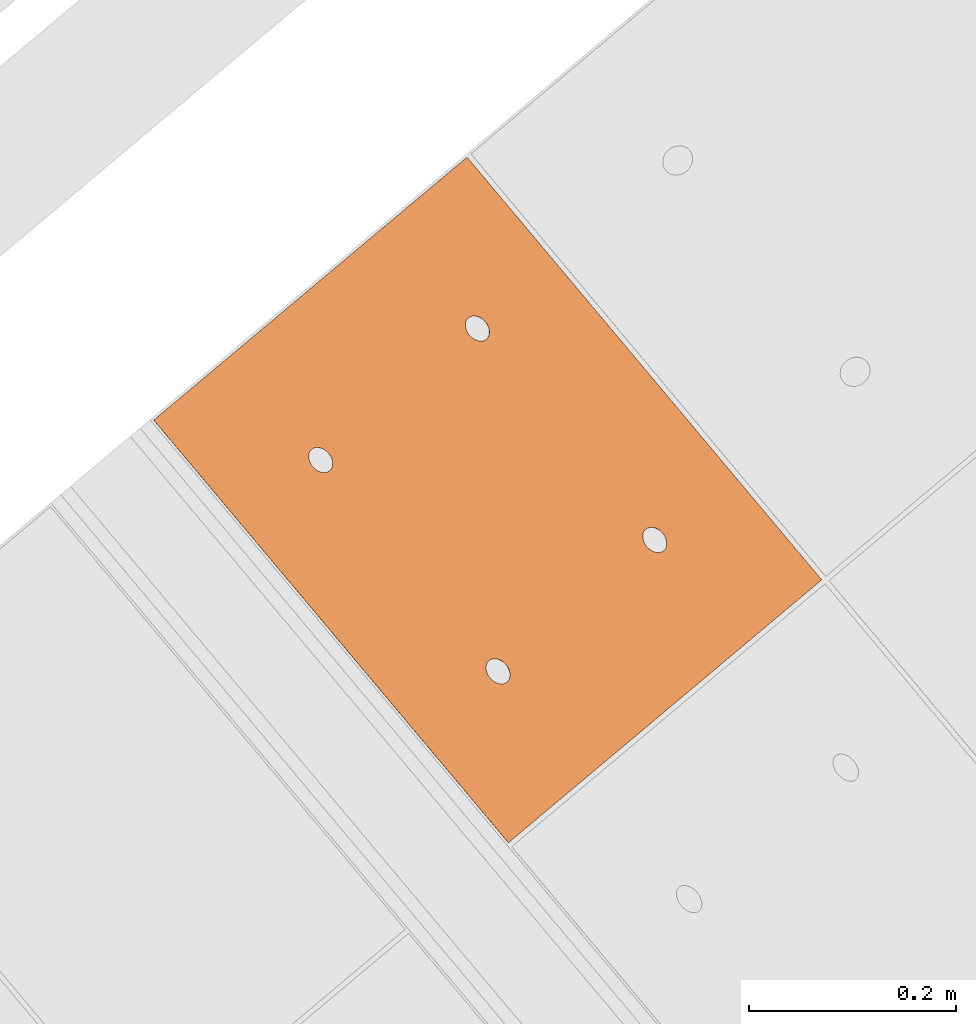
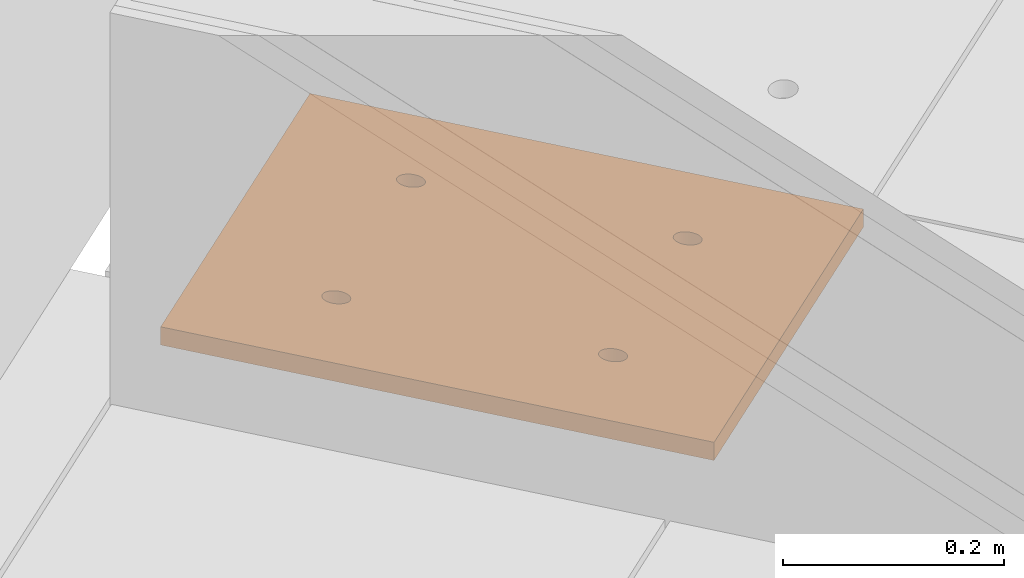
# One storey, part 322 of 338: 1 proxy, 1 element without a shape of its own.
"""IFC2X3 building model written with IfcOpenShell, lengths in millimetres."""

from ifc_helpers import new_model, entity, si_unit, converted_unit, derived_unit, money_unit, direction, frame, origin_with_axes, place, context, subcontext, project, spatial, faceted_brep, material, type_object, element, aggregate, save


model = new_model("IFC2X3")

# Units and contexts
model_context = context("Model", 3, precision=0.01, world=origin_with_axes(), true_north=direction((0.0, 1.0)))
plan_context = context("Plan", 3, precision=0.01, world=origin_with_axes(), true_north=direction((0.0, 1.0)))
body_context = subcontext(model_context, "Body", "Model", "MODEL_VIEW")
ifc_project = project(units=[si_unit("LENGTHUNIT", "METRE", prefix="MILLI"), si_unit("AREAUNIT", "SQUARE_METRE"), si_unit("VOLUMEUNIT", "CUBIC_METRE"), converted_unit("PLANEANGLEUNIT", "DEGREE", entity("IfcPlaneAngleMeasure", 0.0174532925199), si_unit("PLANEANGLEUNIT", "RADIAN"), dimensions=[0, 0, 0, 0, 0, 0, 0]), money_unit("EUR"), converted_unit("TIMEUNIT", "Year", entity("IfcTimeMeasure", 31556926.0), si_unit("TIMEUNIT", "SECOND"), dimensions=[0, 0, 1, 0, 0, 0, 0]), si_unit("MASSUNIT", "GRAM", prefix="KILO"), si_unit("THERMODYNAMICTEMPERATUREUNIT", "DEGREE_CELSIUS"), si_unit("LUMINOUSINTENSITYUNIT", "LUMEN"), si_unit("ENERGYUNIT", "JOULE", prefix="MEGA"), derived_unit("THERMALCONDUCTANCEUNIT", [(si_unit("POWERUNIT", "WATT"), 1), (si_unit("LENGTHUNIT", "METRE"), -1), (si_unit("THERMODYNAMICTEMPERATUREUNIT", "KELVIN"), -1)]), derived_unit("SPECIFICHEATCAPACITYUNIT", [(si_unit("ENERGYUNIT", "JOULE"), 1), (si_unit("MASSUNIT", "GRAM", prefix="KILO"), -1), (si_unit("THERMODYNAMICTEMPERATUREUNIT", "KELVIN"), -1)]), derived_unit("MASSDENSITYUNIT", [(si_unit("MASSUNIT", "GRAM", prefix="KILO"), 1), (si_unit("VOLUMEUNIT", "CUBIC_METRE"), -1)])], contexts=[model_context, plan_context])

# Site, building, storey
site_placement = place(None, origin_with_axes())
site = spatial("IfcSite", under=ifc_project, at=site_placement, Name="Fortuinstraat Woensdrecht", CompositionType="ELEMENT")
building_placement = place(site_placement, origin_with_axes())
building = spatial("IfcBuilding", under=site, at=building_placement, Name="IKC Fortuna", CompositionType="ELEMENT")
storey_placement = place(building_placement, origin_with_axes())
storey = spatial("IfcBuildingStorey", under=building, at=storey_placement, Name="00 begane grond", CompositionType="ELEMENT", Elevation=0.0)

# Covering, proxy
covering_type = type_object("IfcCoveringType", Name="Curtain Wall Type", PredefinedType="CEILING")
covering_placement = place(storey_placement, frame((15863.124366, 4456.31398675, 4619.99995334), z_axis=(0.0, 0.0, 1.0), x_axis=(1.0, 0.0, 0.0)))
covering = element("IfcCovering", 1, at=covering_placement, inside=storey, type_object=covering_type, Name="45_Plafondafwerking_P01", PredefinedType="CEILING")
ifc_material = material(Name="Gipsplaat")
building_element_proxy_type = type_object("IfcBuildingElementProxyType", Name="Main Panel 400 x 538 x 20", PredefinedType="NOTDEFINED")
proxy_placement = place(covering_placement, frame((-9577.76360567, 187.484762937, 38.9196635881), z_axis=(0.0, 0.0, 1.0), x_axis=(0.642787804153, -0.766044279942, 0.0)))
proxy = element("IfcBuildingElementProxy", 2, at=proxy_placement, type_object=building_element_proxy_type, material=ifc_material, Name="__600x943 Rockfon Krios", context=body_context, shape_type="Brep", body=[
    faceted_brep([(-266.295988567, 197.328705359, -11.0667235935), (-266.295988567, -0.0540508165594, -9.99985392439), (-266.295988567, 0.0540492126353, 9.99985393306), (-266.295988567, 197.436805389, 8.93298426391), (-6.23458058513e-05, 197.328705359, -11.0667235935), (266.295863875, 197.328705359, -11.0667235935), (266.295863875, -0.0540508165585, -9.99985392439), (266.295863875, -197.436806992, -8.93298425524), (-6.23458062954e-05, -197.436806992, -8.93298425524), (-266.295988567, -197.436806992, -8.93298425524), (134.322583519, 88.6852555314, -10.4794970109), (136.636256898, 88.9876441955, -10.481131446), (138.843938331, 89.5832335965, -10.4843506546), (140.878548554, 90.4539270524, -10.4890568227), (142.678266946, 91.5732689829, -10.4951069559), (144.188409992, 92.90724875, -10.5023172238), (145.363092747, 94.4153340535, -10.5104685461), (146.16662308, 96.051702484, -10.5193132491), (146.57458612, 97.7666338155, -10.5285825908), (146.57458612, 99.5080207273, -10.5379949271), (146.16662308, 101.222952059, -10.5472642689), (145.363092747, 102.85932049, -10.5561089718), (144.188409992, 104.367405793, -10.5642602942), (142.678266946, 105.70138556, -10.5714705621), (140.878548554, 106.82072749, -10.5775206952), (138.843938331, 107.691420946, -10.5822268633), (136.636256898, 108.287010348, -10.585446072), (134.322583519, 108.589399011, -10.587080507), (133.147900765, 108.589399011, -10.587080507), (131.97321801, 108.589399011, -10.587080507), (129.659544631, 108.287010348, -10.585446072), (127.451863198, 107.691420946, -10.5822268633), (125.417252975, 106.82072749, -10.5775206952), (123.617534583, 105.70138556, -10.5714705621), (122.107391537, 104.367405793, -10.5642602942), (120.932708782, 102.85932049, -10.5561089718), (120.12917845, 101.222952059, -10.5472642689), (119.721215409, 99.5080207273, -10.5379949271), (119.721215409, 97.7666338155, -10.5285825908), (120.12917845, 96.051702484, -10.5193132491), (120.932708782, 94.4153340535, -10.5104685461), (122.107391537, 92.90724875, -10.5023172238), (123.617534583, 91.5732689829, -10.4951069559), (125.417252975, 90.4539270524, -10.4890568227), (127.451863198, 89.5832335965, -10.4843506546), (129.659544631, 88.9876441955, -10.481131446), (131.97321801, 88.6852555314, -10.4794970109), (134.322583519, -108.697500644, -9.41262734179), (136.636256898, -108.39511198, -9.41426177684), (138.843938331, -107.799522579, -9.41748098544), (140.878548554, -106.928829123, -9.42218715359), (142.678266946, -105.809487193, -9.42823728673), (144.188409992, -104.475507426, -9.43544755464), (145.363092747, -102.967422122, -9.44359887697), (146.16662308, -101.331053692, -9.45244357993), (146.57458612, -99.6161223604, -9.46171292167), (146.57458612, -97.8747354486, -9.47112525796), (146.16662308, -96.1598041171, -9.48039459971), (145.363092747, -94.523435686, -9.48923930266), (144.188409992, -93.0153503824, -9.497390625), (142.678266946, -91.681370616, -9.5046008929), (140.878548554, -90.5620286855, -9.51065102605), (138.843938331, -89.6913352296, -9.51535719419), (136.636256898, -89.0957458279, -9.5185764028), (134.322583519, -88.7933571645, -9.52021083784), (133.147900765, -88.7933571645, -9.52021083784), (131.97321801, -88.7933571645, -9.52021083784), (129.659544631, -89.0957458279, -9.5185764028), (127.451863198, -89.6913352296, -9.51535719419), (125.417252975, -90.5620286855, -9.51065102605), (123.617534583, -91.681370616, -9.5046008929), (122.107391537, -93.0153503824, -9.497390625), (120.932708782, -94.523435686, -9.48923930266), (120.12917845, -96.1598041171, -9.48039459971), (119.721215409, -97.8747354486, -9.47112525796), (119.721215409, -99.6161223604, -9.46171292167), (120.12917845, -101.331053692, -9.45244357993), (120.932708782, -102.967422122, -9.44359887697), (122.107391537, -104.475507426, -9.43544755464), (123.617534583, -105.809487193, -9.42823728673), (125.417252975, -106.928829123, -9.42218715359), (127.451863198, -107.799522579, -9.41748098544), (129.659544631, -108.39511198, -9.41426177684), (131.97321801, -108.697500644, -9.41262734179), (-131.973342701, -108.697500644, -9.41262734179), (-129.659669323, -108.39511198, -9.41426177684), (-127.45198789, -107.799522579, -9.41748098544), (-125.417377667, -106.928829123, -9.42218715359), (-123.617659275, -105.809487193, -9.42823728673), (-122.107516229, -104.475507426, -9.43544755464), (-120.932833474, -102.967422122, -9.44359887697), (-120.129303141, -101.331053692, -9.45244357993), (-119.721340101, -99.6161223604, -9.46171292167), (-119.721340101, -97.8747354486, -9.47112525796), (-120.129303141, -96.1598041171, -9.48039459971), (-120.932833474, -94.523435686, -9.48923930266), (-122.107516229, -93.0153503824, -9.497390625), (-123.617659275, -91.681370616, -9.5046008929), (-125.417377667, -90.5620286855, -9.51065102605), (-127.45198789, -89.6913352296, -9.51535719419), (-129.659669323, -89.0957458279, -9.5185764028), (-131.973342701, -88.7933571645, -9.52021083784), (-133.148025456, -88.7933571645, -9.52021083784), (-134.322708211, -88.7933571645, -9.52021083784), (-136.63638159, -89.0957458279, -9.5185764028), (-138.844063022, -89.6913352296, -9.51535719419), (-140.878673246, -90.5620286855, -9.51065102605), (-142.678391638, -91.681370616, -9.5046008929), (-144.188534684, -93.0153503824, -9.497390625), (-145.363217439, -94.523435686, -9.48923930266), (-146.166747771, -96.1598041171, -9.48039459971), (-146.574710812, -97.8747354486, -9.47112525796), (-146.574710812, -99.6161223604, -9.46171292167), (-146.166747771, -101.331053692, -9.45244357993), (-145.363217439, -102.967422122, -9.44359887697), (-144.188534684, -104.475507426, -9.43544755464), (-142.678391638, -105.809487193, -9.42823728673), (-140.878673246, -106.928829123, -9.42218715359), (-138.844063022, -107.799522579, -9.41748098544), (-136.63638159, -108.39511198, -9.41426177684), (-134.322708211, -108.697500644, -9.41262734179), (-131.973342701, 88.6852555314, -10.4794970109), (-129.659669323, 88.9876441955, -10.481131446), (-127.45198789, 89.5832335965, -10.4843506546), (-125.417377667, 90.4539270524, -10.4890568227), (-123.617659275, 91.5732689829, -10.4951069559), (-122.107516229, 92.90724875, -10.5023172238), (-120.932833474, 94.4153340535, -10.5104685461), (-120.129303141, 96.051702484, -10.5193132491), (-119.721340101, 97.7666338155, -10.5285825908), (-119.721340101, 99.5080207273, -10.5379949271), (-120.129303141, 101.222952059, -10.5472642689), (-120.932833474, 102.85932049, -10.5561089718), (-122.107516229, 104.367405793, -10.5642602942), (-123.617659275, 105.70138556, -10.5714705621), (-125.417377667, 106.82072749, -10.5775206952), (-127.45198789, 107.691420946, -10.5822268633), (-129.659669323, 108.287010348, -10.585446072), (-131.973342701, 108.589399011, -10.587080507), (-133.148025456, 108.589399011, -10.587080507), (-134.322708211, 108.589399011, -10.587080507), (-136.63638159, 108.287010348, -10.585446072), (-138.844063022, 107.691420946, -10.5822268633), (-140.878673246, 106.82072749, -10.5775206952), (-142.678391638, 105.70138556, -10.5714705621), (-144.188534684, 104.367405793, -10.5642602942), (-145.363217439, 102.85932049, -10.5561089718), (-146.166747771, 101.222952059, -10.5472642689), (-146.574710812, 99.5080207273, -10.5379949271), (-146.574710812, 97.7666338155, -10.5285825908), (-146.166747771, 96.051702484, -10.5193132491), (-145.363217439, 94.4153340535, -10.5104685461), (-144.188534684, 92.90724875, -10.5023172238), (-142.678391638, 91.5732689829, -10.4951069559), (-140.878673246, 90.4539270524, -10.4890568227), (-138.844063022, 89.5832335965, -10.4843506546), (-136.63638159, 88.9876441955, -10.481131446), (-134.322708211, 88.6852555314, -10.4794970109), (-266.295988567, -197.328706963, 11.0667236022), (-6.23458062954e-05, -197.328706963, 11.0667236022), (266.295863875, -197.328706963, 11.0667236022), (266.295863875, 0.0540492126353, 9.99985393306), (266.295863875, 197.436805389, 8.93298426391), (-6.23458054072e-05, 197.436805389, 8.93298426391), (134.322583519, 88.7933555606, 9.52021084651), (131.97321801, 88.7933555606, 9.52021084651), (129.659544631, 89.0957442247, 9.51857641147), (127.451863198, 89.6913336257, 9.51535720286), (125.417252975, 90.5620270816, 9.51065103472), (123.617534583, 91.6813690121, 9.50460090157), (122.107391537, 93.0153487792, 9.49739063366), (120.932708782, 94.5234340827, 9.48923931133), (120.12917845, 96.1598025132, 9.48039460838), (119.721215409, 97.8747338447, 9.47112526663), (119.721215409, 99.6161207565, 9.46171293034), (120.12917845, 101.331052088, 9.45244358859), (120.932708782, 102.967420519, 9.44359888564), (122.107391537, 104.475505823, 9.43544756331), (123.617534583, 105.809485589, 9.4282372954), (125.417252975, 106.92882752, 9.42218716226), (127.451863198, 107.799520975, 9.41748099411), (129.659544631, 108.395110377, 9.4142617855), (131.97321801, 108.697499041, 9.41262735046), (133.147900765, 108.697499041, 9.41262735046), (134.322583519, 108.697499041, 9.41262735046), (136.636256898, 108.395110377, 9.4142617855), (138.843938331, 107.799520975, 9.41748099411), (140.878548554, 106.92882752, 9.42218716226), (142.678266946, 105.809485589, 9.4282372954), (144.188409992, 104.475505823, 9.43544756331), (145.363092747, 102.967420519, 9.44359888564), (146.16662308, 101.331052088, 9.45244358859), (146.57458612, 99.6161207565, 9.46171293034), (146.57458612, 97.8747338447, 9.47112526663), (146.16662308, 96.1598025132, 9.48039460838), (145.363092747, 94.5234340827, 9.48923931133), (144.188409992, 93.0153487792, 9.49739063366), (142.678266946, 91.6813690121, 9.50460090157), (140.878548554, 90.5620270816, 9.51065103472), (138.843938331, 89.6913336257, 9.51535720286), (136.636256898, 89.0957442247, 9.51857641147), (134.322583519, -108.589400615, 10.5870805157), (131.97321801, -108.589400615, 10.5870805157), (129.659544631, -108.287011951, 10.5854460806), (127.451863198, -107.69142255, 10.582226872), (125.417252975, -106.820729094, 10.5775207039), (123.617534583, -105.701387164, 10.5714705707), (122.107391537, -104.367407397, 10.5642603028), (120.932708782, -102.859322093, 10.5561089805), (120.12917845, -101.222953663, 10.5472642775), (119.721215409, -99.5080223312, 10.5379949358), (119.721215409, -97.7666354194, 10.5285825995), (120.12917845, -96.0517040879, 10.5193132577), (120.932708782, -94.4153356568, 10.5104685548), (122.107391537, -92.9072503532, 10.5023172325), (123.617534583, -91.5732705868, 10.4951069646), (125.417252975, -90.4539286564, 10.4890568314), (127.451863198, -89.5832352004, 10.4843506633), (129.659544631, -88.9876457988, 10.4811314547), (131.97321801, -88.6852571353, 10.4794970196), (133.147900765, -88.6852571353, 10.4794970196), (134.322583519, -88.6852571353, 10.4794970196), (136.636256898, -88.9876457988, 10.4811314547), (138.843938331, -89.5832352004, 10.4843506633), (140.878548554, -90.4539286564, 10.4890568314), (142.678266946, -91.5732705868, 10.4951069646), (144.188409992, -92.9072503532, 10.5023172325), (145.363092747, -94.4153356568, 10.5104685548), (146.16662308, -96.0517040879, 10.5193132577), (146.57458612, -97.7666354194, 10.5285825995), (146.57458612, -99.5080223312, 10.5379949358), (146.16662308, -101.222953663, 10.5472642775), (145.363092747, -102.859322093, 10.5561089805), (144.188409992, -104.367407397, 10.5642603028), (142.678266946, -105.701387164, 10.5714705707), (140.878548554, -106.820729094, 10.5775207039), (138.843938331, -107.69142255, 10.582226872), (136.636256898, -108.287011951, 10.5854460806), (-131.973342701, -108.589400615, 10.5870805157), (-134.322708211, -108.589400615, 10.5870805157), (-136.63638159, -108.287011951, 10.5854460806), (-138.844063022, -107.69142255, 10.582226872), (-140.878673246, -106.820729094, 10.5775207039), (-142.678391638, -105.701387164, 10.5714705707), (-144.188534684, -104.367407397, 10.5642603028), (-145.363217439, -102.859322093, 10.5561089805), (-146.166747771, -101.222953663, 10.5472642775), (-146.574710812, -99.5080223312, 10.5379949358), (-146.574710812, -97.7666354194, 10.5285825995), (-146.166747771, -96.0517040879, 10.5193132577), (-145.363217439, -94.4153356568, 10.5104685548), (-144.188534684, -92.9072503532, 10.5023172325), (-142.678391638, -91.5732705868, 10.4951069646), (-140.878673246, -90.4539286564, 10.4890568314), (-138.844063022, -89.5832352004, 10.4843506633), (-136.63638159, -88.9876457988, 10.4811314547), (-134.322708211, -88.6852571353, 10.4794970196), (-133.148025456, -88.6852571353, 10.4794970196), (-131.973342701, -88.6852571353, 10.4794970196), (-129.659669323, -88.9876457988, 10.4811314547), (-127.45198789, -89.5832352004, 10.4843506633), (-125.417377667, -90.4539286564, 10.4890568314), (-123.617659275, -91.5732705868, 10.4951069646), (-122.107516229, -92.9072503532, 10.5023172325), (-120.932833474, -94.4153356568, 10.5104685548), (-120.129303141, -96.0517040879, 10.5193132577), (-119.721340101, -97.7666354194, 10.5285825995), (-119.721340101, -99.5080223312, 10.5379949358), (-120.129303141, -101.222953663, 10.5472642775), (-120.932833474, -102.859322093, 10.5561089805), (-122.107516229, -104.367407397, 10.5642603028), (-123.617659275, -105.701387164, 10.5714705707), (-125.417377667, -106.820729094, 10.5775207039), (-127.45198789, -107.69142255, 10.582226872), (-129.659669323, -108.287011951, 10.5854460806), (-131.973342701, 88.7933555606, 9.52021084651), (-134.322708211, 88.7933555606, 9.52021084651), (-136.63638159, 89.0957442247, 9.51857641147), (-138.844063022, 89.6913336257, 9.51535720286), (-140.878673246, 90.5620270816, 9.51065103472), (-142.678391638, 91.6813690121, 9.50460090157), (-144.188534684, 93.0153487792, 9.49739063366), (-145.363217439, 94.5234340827, 9.48923931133), (-146.166747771, 96.1598025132, 9.48039460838), (-146.574710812, 97.8747338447, 9.47112526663), (-146.574710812, 99.6161207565, 9.46171293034), (-146.166747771, 101.331052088, 9.45244358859), (-145.363217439, 102.967420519, 9.44359888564), (-144.188534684, 104.475505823, 9.43544756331), (-142.678391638, 105.809485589, 9.4282372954), (-140.878673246, 106.92882752, 9.42218716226), (-138.844063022, 107.799520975, 9.41748099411), (-136.63638159, 108.395110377, 9.4142617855), (-134.322708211, 108.697499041, 9.41262735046), (-133.148025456, 108.697499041, 9.41262735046), (-131.973342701, 108.697499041, 9.41262735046), (-129.659669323, 108.395110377, 9.4142617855), (-127.45198789, 107.799520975, 9.41748099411), (-125.417377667, 106.92882752, 9.42218716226), (-123.617659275, 105.809485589, 9.4282372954), (-122.107516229, 104.475505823, 9.43544756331), (-120.932833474, 102.967420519, 9.44359888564), (-120.129303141, 101.331052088, 9.45244358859), (-119.721340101, 99.6161207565, 9.46171293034), (-119.721340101, 97.8747338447, 9.47112526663), (-120.129303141, 96.1598025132, 9.48039460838), (-120.932833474, 94.5234340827, 9.48923931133), (-122.107516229, 93.0153487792, 9.49739063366), (-123.617659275, 91.6813690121, 9.50460090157), (-125.417377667, 90.5620270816, 9.51065103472), (-127.45198789, 89.6913336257, 9.51535720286), (-129.659669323, 89.0957442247, 9.51857641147)], [[[0, 1, 2, 3]], [[0, 4, 5, 6, 7, 8, 9, 1], [10, 11, 12, 13, 14, 15, 16, 17, 18, 19, 20, 21, 22, 23, 24, 25, 26, 27, 28, 29, 30, 31, 32, 33, 34, 35, 36, 37, 38, 39, 40, 41, 42, 43, 44, 45, 46], [47, 48, 49, 50, 51, 52, 53, 54, 55, 56, 57, 58, 59, 60, 61, 62, 63, 64, 65, 66, 67, 68, 69, 70, 71, 72, 73, 74, 75, 76, 77, 78, 79, 80, 81, 82, 83], [84, 85, 86, 87, 88, 89, 90, 91, 92, 93, 94, 95, 96, 97, 98, 99, 100, 101, 102, 103, 104, 105, 106, 107, 108, 109, 110, 111, 112, 113, 114, 115, 116, 117, 118, 119, 120], [121, 122, 123, 124, 125, 126, 127, 128, 129, 130, 131, 132, 133, 134, 135, 136, 137, 138, 139, 140, 141, 142, 143, 144, 145, 146, 147, 148, 149, 150, 151, 152, 153, 154, 155, 156, 157]], [[1, 9, 158, 2]], [[3, 2, 158, 159, 160, 161, 162, 163], [164, 165, 166, 167, 168, 169, 170, 171, 172, 173, 174, 175, 176, 177, 178, 179, 180, 181, 182, 183, 184, 185, 186, 187, 188, 189, 190, 191, 192, 193, 194, 195, 196, 197, 198, 199, 200], [201, 202, 203, 204, 205, 206, 207, 208, 209, 210, 211, 212, 213, 214, 215, 216, 217, 218, 219, 220, 221, 222, 223, 224, 225, 226, 227, 228, 229, 230, 231, 232, 233, 234, 235, 236, 237], [238, 239, 240, 241, 242, 243, 244, 245, 246, 247, 248, 249, 250, 251, 252, 253, 254, 255, 256, 257, 258, 259, 260, 261, 262, 263, 264, 265, 266, 267, 268, 269, 270, 271, 272, 273, 274], [275, 276, 277, 278, 279, 280, 281, 282, 283, 284, 285, 286, 287, 288, 289, 290, 291, 292, 293, 294, 295, 296, 297, 298, 299, 300, 301, 302, 303, 304, 305, 306, 307, 308, 309, 310, 311]], [[4, 0, 3, 163]], [[5, 4, 163, 162]], [[6, 5, 162, 161]], [[7, 6, 161, 160]], [[8, 7, 160, 159]], [[9, 8, 159, 158]], [[11, 10, 164, 200]], [[12, 11, 200, 199]], [[13, 12, 199, 198]], [[14, 13, 198, 197]], [[15, 14, 197, 196]], [[16, 15, 196, 195]], [[17, 16, 195, 194]], [[18, 17, 194, 193]], [[19, 18, 193, 192]], [[20, 19, 192, 191]], [[21, 20, 191, 190]], [[22, 21, 190, 189]], [[23, 22, 189, 188]], [[24, 23, 188, 187]], [[25, 24, 187, 186]], [[26, 25, 186, 185]], [[27, 26, 185, 184]], [[28, 27, 184, 183]], [[29, 28, 183, 182]], [[30, 29, 182, 181]], [[31, 30, 181, 180]], [[32, 31, 180, 179]], [[33, 32, 179, 178]], [[34, 33, 178, 177]], [[35, 34, 177, 176]], [[36, 35, 176, 175]], [[37, 36, 175, 174]], [[38, 37, 174, 173]], [[39, 38, 173, 172]], [[40, 39, 172, 171]], [[41, 40, 171, 170]], [[42, 41, 170, 169]], [[43, 42, 169, 168]], [[44, 43, 168, 167]], [[45, 44, 167, 166]], [[46, 45, 166, 165]], [[10, 46, 165, 164]], [[48, 47, 201, 237]], [[49, 48, 237, 236]], [[50, 49, 236, 235]], [[51, 50, 235, 234]], [[52, 51, 234, 233]], [[53, 52, 233, 232]], [[54, 53, 232, 231]], [[55, 54, 231, 230]], [[56, 55, 230, 229]], [[57, 56, 229, 228]], [[58, 57, 228, 227]], [[59, 58, 227, 226]], [[60, 59, 226, 225]], [[61, 60, 225, 224]], [[62, 61, 224, 223]], [[63, 62, 223, 222]], [[64, 63, 222, 221]], [[65, 64, 221, 220]], [[66, 65, 220, 219]], [[67, 66, 219, 218]], [[68, 67, 218, 217]], [[69, 68, 217, 216]], [[70, 69, 216, 215]], [[71, 70, 215, 214]], [[72, 71, 214, 213]], [[73, 72, 213, 212]], [[74, 73, 212, 211]], [[75, 74, 211, 210]], [[76, 75, 210, 209]], [[77, 76, 209, 208]], [[78, 77, 208, 207]], [[79, 78, 207, 206]], [[80, 79, 206, 205]], [[81, 80, 205, 204]], [[82, 81, 204, 203]], [[83, 82, 203, 202]], [[47, 83, 202, 201]], [[85, 84, 238, 274]], [[86, 85, 274, 273]], [[87, 86, 273, 272]], [[88, 87, 272, 271]], [[89, 88, 271, 270]], [[90, 89, 270, 269]], [[91, 90, 269, 268]], [[92, 91, 268, 267]], [[93, 92, 267, 266]], [[94, 93, 266, 265]], [[95, 94, 265, 264]], [[96, 95, 264, 263]], [[97, 96, 263, 262]], [[98, 97, 262, 261]], [[99, 98, 261, 260]], [[100, 99, 260, 259]], [[101, 100, 259, 258]], [[102, 101, 258, 257]], [[103, 102, 257, 256]], [[104, 103, 256, 255]], [[105, 104, 255, 254]], [[106, 105, 254, 253]], [[107, 106, 253, 252]], [[108, 107, 252, 251]], [[109, 108, 251, 250]], [[110, 109, 250, 249]], [[111, 110, 249, 248]], [[112, 111, 248, 247]], [[113, 112, 247, 246]], [[114, 113, 246, 245]], [[115, 114, 245, 244]], [[116, 115, 244, 243]], [[117, 116, 243, 242]], [[118, 117, 242, 241]], [[119, 118, 241, 240]], [[120, 119, 240, 239]], [[84, 120, 239, 238]], [[122, 121, 275, 311]], [[123, 122, 311, 310]], [[124, 123, 310, 309]], [[125, 124, 309, 308]], [[126, 125, 308, 307]], [[127, 126, 307, 306]], [[128, 127, 306, 305]], [[129, 128, 305, 304]], [[130, 129, 304, 303]], [[131, 130, 303, 302]], [[132, 131, 302, 301]], [[133, 132, 301, 300]], [[134, 133, 300, 299]], [[135, 134, 299, 298]], [[136, 135, 298, 297]], [[137, 136, 297, 296]], [[138, 137, 296, 295]], [[139, 138, 295, 294]], [[140, 139, 294, 293]], [[141, 140, 293, 292]], [[142, 141, 292, 291]], [[143, 142, 291, 290]], [[144, 143, 290, 289]], [[145, 144, 289, 288]], [[146, 145, 288, 287]], [[147, 146, 287, 286]], [[148, 147, 286, 285]], [[149, 148, 285, 284]], [[150, 149, 284, 283]], [[151, 150, 283, 282]], [[152, 151, 282, 281]], [[153, 152, 281, 280]], [[154, 153, 280, 279]], [[155, 154, 279, 278]], [[156, 155, 278, 277]], [[157, 156, 277, 276]], [[121, 157, 276, 275]]]),
])
aggregate(covering, [proxy])

save(model, "model.ifc")
